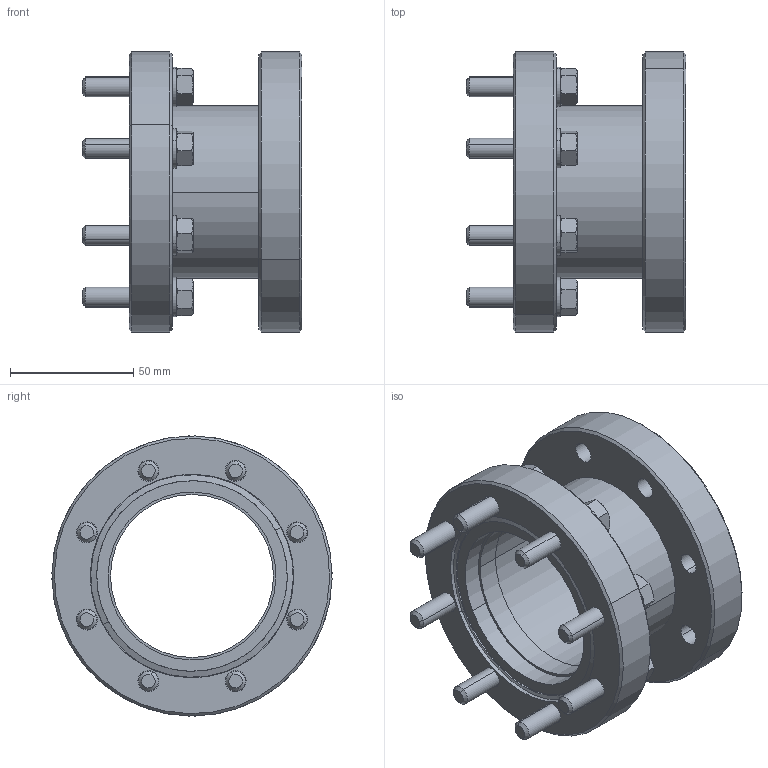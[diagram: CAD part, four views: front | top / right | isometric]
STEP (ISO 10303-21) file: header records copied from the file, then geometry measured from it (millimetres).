
FILE_DESCRIPTION(('CATIA V5 STEP Exchange'),'2;1');
FILE_NAME('W:\KONSTRUKTION\PRODUCTS\MXY\MXY63\UPGRADEMXY63\UPGRADEMXY63(+STCF63CF63RL70)\UPGRADEMXY63(+STCF63CF63RL70).stp','2019-12-16T07:59:13+00:00',('none'),('none'),'CATIA Version 5 Release 20 SP 7 (IN-10)','CATIA V5 STEP AP214','none');
FILE_SCHEMA(('AUTOMOTIVE_DESIGN { 1 0 10303 214 1 1 1 1 }'));
Length unit declared in the file: millimetre
Products named in the file (9): UPGRADEMXY63(+STCF63CF63RL70); BOTSCF63; BOTSCF63_Single; 10108045CLN; 25108000; 26108000; STCF63CF63RL70; TFCF63_1; TFCF63R_1
Assembly tree (15 placements, depth 4):
  UPGRADEMXY63(+STCF63CF63RL70)
    BOTSCF63
      BOTSCF63_Single  x8
        10108045CLN
        25108000
        26108000
    STCF63CF63RL70
      TFCF63_1
      TFCF63R_1
Bounding box: 89.1 x 113.47 x 113.47 mm (x, y, z)
Volume: 248039.1 mm3; surface area: 102881.2 mm2
Topology: 29 solids, 29 shells, 370 faces, 852 edges, 552 vertices
Faces by surface type: plane 166, cylinder 124, cone 80
Entity records: 3813 total; most frequent: CARTESIAN_POINT 771, ORIENTED_EDGE 584, DIRECTION 506, EDGE_CURVE 292, AXIS2_PLACEMENT_3D 275, VERTEX_POINT 188, EDGE_LOOP 176, CIRCLE 160
